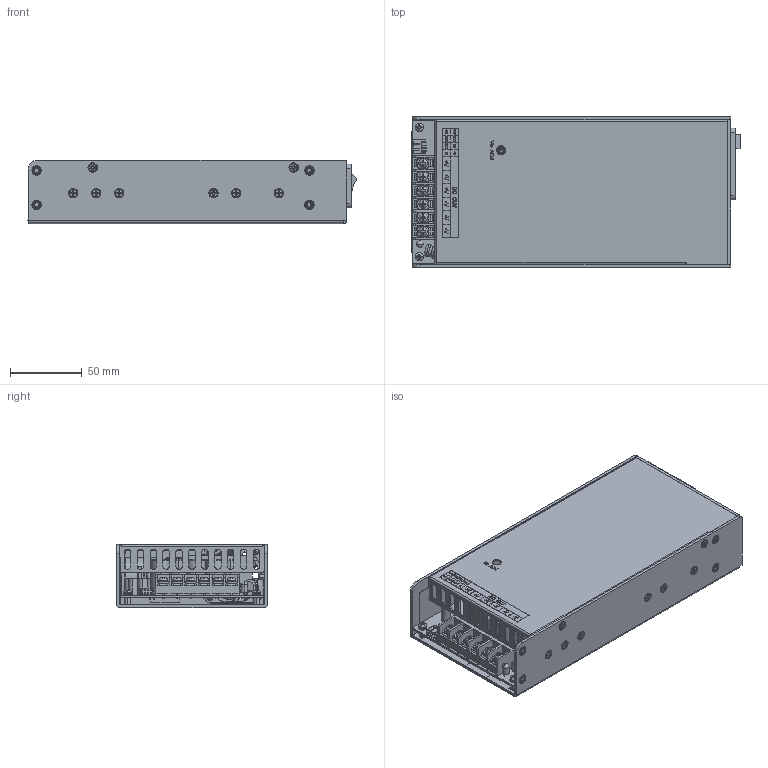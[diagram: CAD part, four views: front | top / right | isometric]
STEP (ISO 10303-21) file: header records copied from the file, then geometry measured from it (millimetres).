
FILE_DESCRIPTION((''),'2;1');
FILE_NAME('AQF600_ASM','2016-02-02T',('arch'),(''),'PRO/ENGINEER BY PARAMETRIC TECHNOLOGY CORPORATION, 2008380','PRO/ENGINEER BY PARAMETRIC TECHNOLOGY CORPORATION, 2008380','');
FILE_SCHEMA(('AUTOMOTIVE_DESIGN { 1 2 10303 214 0 1 1 1 }'));
Length unit declared in the file: millimetre
Products named in the file (25): AQF600_BOT_CASE-119; M4_X_2_MM; M3_X_2_MM; M3_X_7_MM; AQF600_BOT_CASE-80_ASM; PCB; PCB_MYLAR; MANIFOLD_SOLID_BREP_31308; MANIFOLD_SOLID_BREP_35775; FAN_-_4020_ASM; SCREW_PH_M5_12MM_SELF_TAPP; INLET; GGB-90-06; LED; 2_MM_-_CN4; Y_--_C; MANIFOLD_SOLID_BREP_70492; MANIFOLD_SOLID_BREP_70638; MANIFOLD_SOLID_BREP_70912; SCREW_CH_W__M3_8MM_ASM; AQF600_TOP_CASE; PEN_--_M3_-_6; VR; ASSEMBLY_-_600_ASM; AQF600_ASM
Assembly tree (49 placements, depth 4):
  AQF600_ASM
    ASSEMBLY_-_600_ASM
      AQF600_BOT_CASE-80_ASM
        AQF600_BOT_CASE-119
        M4_X_2_MM  x8
        M3_X_2_MM  x3
        M3_X_7_MM  x3
      PCB
      PCB_MYLAR
      FAN_-_4020_ASM
        MANIFOLD_SOLID_BREP_31308
        MANIFOLD_SOLID_BREP_35775
      SCREW_PH_M5_12MM_SELF_TAPP  x4
      INLET
      GGB-90-06
      LED
      2_MM_-_CN4
      Y_--_C  x2
      SCREW_CH_W__M3_8MM_ASM  x2
        MANIFOLD_SOLID_BREP_70492
        MANIFOLD_SOLID_BREP_70638
        MANIFOLD_SOLID_BREP_70912
      AQF600_TOP_CASE
      PEN_--_M3_-_6  x10
      VR
Bounding box: 229.42 x 105 x 44 mm (x, y, z)
Volume: 184119.8 mm3; surface area: 311458.2 mm2
Topology: 48 solids, 49 shells, 5194 faces, 14752 edges, 9864 vertices
Faces by surface type: plane 2840, cylinder 1497, torus 383, cone 204, extrusion 200, bspline 68, sphere 2
Entity records: 114393 total; most frequent: CARTESIAN_POINT 23752, ORIENTED_EDGE 15394, DIRECTION 13579, EDGE_CURVE 7697, PRESENTATION_STYLE_ASSIGNMENT 5719, STYLED_ITEM 5292, CURVE_STYLE 5275, VERTEX_POINT 5229
